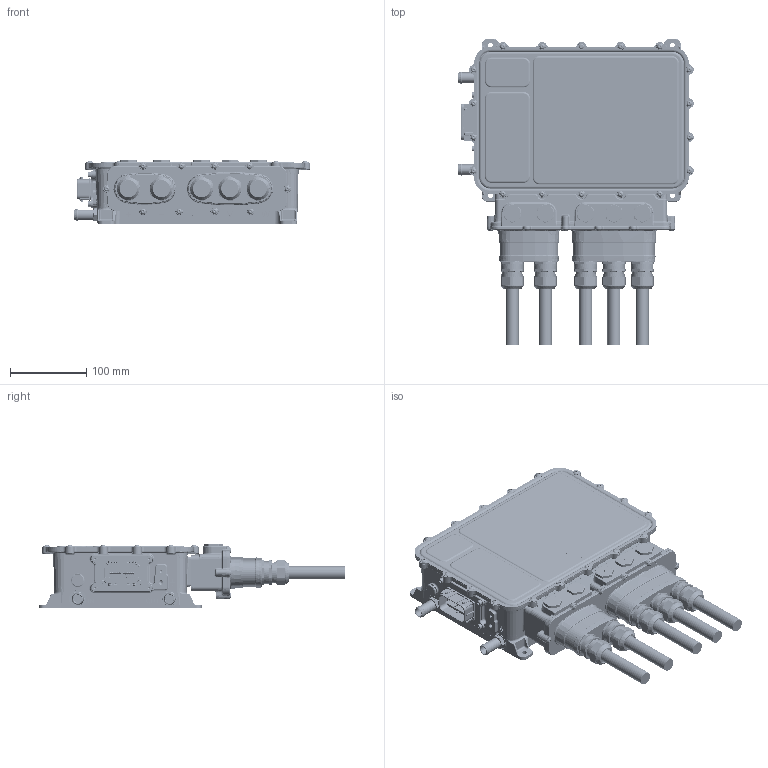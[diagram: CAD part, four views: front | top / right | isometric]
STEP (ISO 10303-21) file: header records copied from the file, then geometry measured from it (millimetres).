
FILE_DESCRIPTION(/* description */ (''),/* implementation_level */ '2;1');
FILE_NAME(/* name */ '07401020500E_A-MAIN ASSEMBLY GLANDS B2 MPU200.stp',/* time_stamp */ '2024-11-22T13:36:31Z',/* author */ (''),/* organization */ (''),/* preprocessor_version */ 'ST-DEVELOPER v19.4',/* originating_system */ 'SIEMENS PLM Software NX2306.1700',/* authorisation */ '');
FILE_SCHEMA (('AUTOMOTIVE_DESIGN { 1 0 10303 214 3 1 1 1 }'));
Products named in the file (36): 500.014.904_A-M6X1 -2 CLINCH NUT; 500.016.058_A-DIA 4.6 INSERT; 500.016.053_A-SHOULDER INSERT; MOLEX_31386-2020_A; 500.000.840_A-IPG5 - RTV SEAL - LV CONNECTOR FRAME; 07401013900E_A-LV CONNECTOR FRAME MPU200; 07401020900E_A-GLAND PLATE MPU200; SCW3X10FTN_A-M3X10 FBUT TX ISO7380-2 ST STL A2; 500.013.429_A-HEAT SHRINK DR-25-3_4-0-SP; 500.013.421_A-RING TERMINAL TE_2365737-1_70MM2; 500.014.872_A-HUBER-S SHIELDED CABLE 70MM2 SHORT; 07401015300E_A-COOLANT PORT SHORT M16X1.5 MPU200; 500.015.066_A-CHASSIS CAST B2 - NO COLDPLATE; 07401020700E_A-BUSBAR PASS THROUGH ENCLOSURE MPU200; SCW4X12FHG_A-M4X12 FBUT SKT  ISO7380-2 10.9 ZP CL; 500.013.401_A-GLAND PLUG M20X1.5 1.199.2000.50; SCW4X10CHC_A-M4X10 CAP SKT DIN912 12.9 ZP CL; SCW4X10FHG_A-M4X10 FBUT SKT  ISO7380-2 10.9 ZP CL; 07401008101E_A-CHASSIS LID MPU200; AMF300114_A-AVS14 SNAP-FIT VENT BLACK NYLO; 500.013.299_A-ARGO 84100298 H_S M25 EMC GLAND; 07401020800E_A-GLAND PLATE ASSY MPU200; 07401022000E_A-PASS THROUGH BUSBAR U MPU200; 07401021100E_A-PASS THROUGH BUSBAR INSUL MPU200; 07401022300E_A-PHASE U PASS THRU BUSBAR ASSY MPU200; 07401022200E_A-PASS THROUGH BUSBAR W MPU200; 07401022400E_A-PHASE W PASS THRU BUSBAR ASSY MPU200; 07401022100E_A-PASS THROUGH BUSBAR V MPU200; 07401021600E_A-PHASE V PASS THRU BUSBAR ASSY MPU200; 07401021900E_A-PASS THROUGH BUSBAR DC MPU200; 07401021200E_A-DC PASS THROUGH BUSBAR ASSY MPU200; 500.014.885_A-HUBER-S SHIELDED CABLE ASSY 70MM2 SHT_NX-ARRAGMNTArrang
ement 1; 07401013800E_A-LV CONNECTOR FRAME ASSEMBLY MPU200; 07401013701E_A-LV CONNECTOR ASSEMBLY MPU200; 07401007301E_A-CHASSIS ASSEMBLY CAST MPU200; 07401020500E_A-B2.1 MAIN ASSEMBLY GLANDS MPU200
Assembly tree (115 placements, depth 4):
  07401020500E_A-B2.1 MAIN ASSEMBLY GLANDS MPU200
    500.013.299_A-ARGO 84100298 H_S M25 EMC GLAND  x5
    AMF300114_A-AVS14 SNAP-FIT VENT BLACK NYLO
    07401007301E_A-CHASSIS ASSEMBLY CAST MPU200
      07401015300E_A-COOLANT PORT SHORT M16X1.5 MPU200  x2
    07401013701E_A-LV CONNECTOR ASSEMBLY MPU200
      07401013800E_A-LV CONNECTOR FRAME ASSEMBLY MPU200
        07401013900E_A-LV CONNECTOR FRAME MPU200
        500.000.840_A-IPG5 - RTV SEAL - LV CONNECTOR FRAME
        MOLEX_31386-2020_A
    07401008101E_A-CHASSIS LID MPU200
    SCW4X10FHG_A-M4X10 FBUT SKT  ISO7380-2 10.9 ZP CL  x18
    SCW4X10CHC_A-M4X10 CAP SKT DIN912 12.9 ZP CL  x4
    500.013.401_A-GLAND PLUG M20X1.5 1.199.2000.50  x5
    500.014.885_A-HUBER-S SHIELDED CABLE ASSY 70MM2 SHT_NX-ARRAGMNTArrang
ement 1  x5
      500.014.872_A-HUBER-S SHIELDED CABLE 70MM2 SHORT
      500.013.421_A-RING TERMINAL TE_2365737-1_70MM2
      500.013.429_A-HEAT SHRINK DR-25-3_4-0-SP
    07401021200E_A-DC PASS THROUGH BUSBAR ASSY MPU200  x2
      07401021100E_A-PASS THROUGH BUSBAR INSUL MPU200
        500.016.053_A-SHOULDER INSERT  x2
        500.016.058_A-DIA 4.6 INSERT  x4
      SCW3X10FTN_A-M3X10 FBUT TX ISO7380-2 ST STL A2
      07401021900E_A-PASS THROUGH BUSBAR DC MPU200
        500.014.904_A-M6X1 -2 CLINCH NUT
    07401021600E_A-PHASE V PASS THRU BUSBAR ASSY MPU200
      07401021100E_A-PASS THROUGH BUSBAR INSUL MPU200
        500.016.053_A-SHOULDER INSERT  x2
        500.016.058_A-DIA 4.6 INSERT  x4
      SCW3X10FTN_A-M3X10 FBUT TX ISO7380-2 ST STL A2  x2
      07401022100E_A-PASS THROUGH BUSBAR V MPU200
        500.014.904_A-M6X1 -2 CLINCH NUT
    07401022400E_A-PHASE W PASS THRU BUSBAR ASSY MPU200
      07401021100E_A-PASS THROUGH BUSBAR INSUL MPU200
        500.016.053_A-SHOULDER INSERT  x2
        500.016.058_A-DIA 4.6 INSERT  x4
      SCW3X10FTN_A-M3X10 FBUT TX ISO7380-2 ST STL A2  x2
      07401022200E_A-PASS THROUGH BUSBAR W MPU200
        500.014.904_A-M6X1 -2 CLINCH NUT
    07401022300E_A-PHASE U PASS THRU BUSBAR ASSY MPU200
      07401021100E_A-PASS THROUGH BUSBAR INSUL MPU200
        500.016.053_A-SHOULDER INSERT  x2
        500.016.058_A-DIA 4.6 INSERT  x4
      SCW3X10FTN_A-M3X10 FBUT TX ISO7380-2 ST STL A2  x2
      07401022000E_A-PASS THROUGH BUSBAR U MPU200
        500.014.904_A-M6X1 -2 CLINCH NUT
    SCW4X12FHG_A-M4X12 FBUT SKT  ISO7380-2 10.9 ZP CL  x30
    07401020700E_A-BUSBAR PASS THROUGH ENCLOSURE MPU200
    07401020800E_A-GLAND PLATE ASSY MPU200
      07401020900E_A-GLAND PLATE MPU200
    500.015.066_A-CHASSIS CAST B2 - NO COLDPLATE
Bounding box: 309.95 x 402.55 x 85.3 mm (x, y, z)
Volume: 1573961 mm3; surface area: 941698 mm2
Topology: 164 solids, 166 shells, 18385 faces, 46846 edges, 27664 vertices
Faces by surface type: plane 6026, cylinder 5680, cone 1904, bspline 1682, torus 1591, sphere 1236, extrusion 234, revolution 32
Full cylindrical faces by diameter (mm): 2.007 x4, 2.5 x14, 3 x10, 3.3 x85, 3.5 x6, 4 x52, 4.05 x10, 4.5 x49, 4.6 x20, 4.75 x1, 5 x3, 5.45 x2, 5.5 x1, 6.1 x20, 6.19 x20, 6.4 x1, 6.45 x20, 6.5 x89, 7 x4, 8 x20, 8.1 x40, 8.4 x10, 8.5 x1, 8.79 x5, 11 x2, 11.6 x10, 12.5 x5, 13.7 x15, 14 x2, 14.5 x2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
Entity records: 512420 total; most frequent: CARTESIAN_POINT 188185, ORIENTED_EDGE 63988, DIRECTION 55455, EDGE_CURVE 31994, AXIS2_PLACEMENT_3D 21277, VERTEX_POINT 20050, EDGE_LOOP 14625, ADVANCED_FACE 13171
